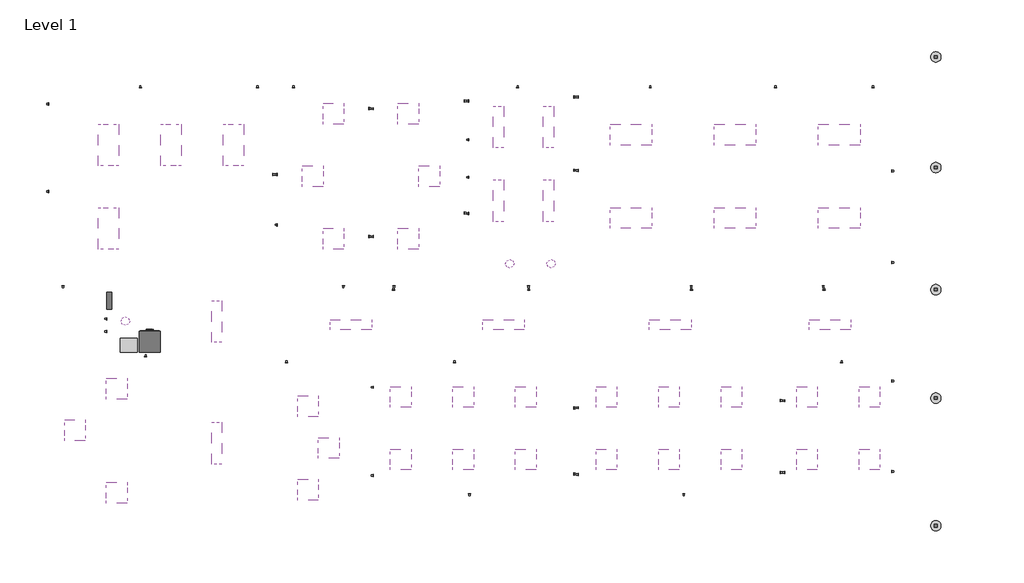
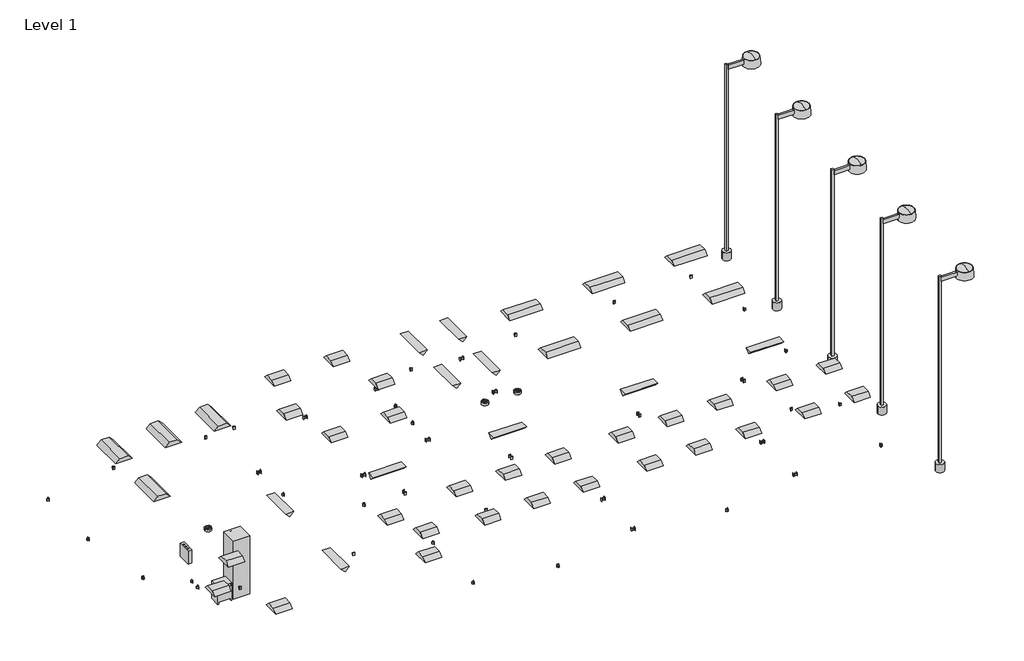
# One storey: 61 proxies, 56 light fixtures.
"""IFC4 building model written with IfcOpenShell, lengths in millimetres."""

from ifc_helpers import new_model, si_unit, origin, place, context, project, spatial, transform, mapped, element, save
from components import proxy_15_kva_b0f935c8, duplex_receptacle_standard_10251bba, lighting_and_appliance_panelboard_208v_100_a_7126e705, proxy_f2fcea41, ceiling_light_flat_round_60w_120v_a3c1fe64, plain_recessed_lighting_fixture_1x4_120_73690371, plain_recessed_lighting_fixture_2x2_120_2107ce2d, plain_recessed_lighting_fixture_2x4_120_d3d5fc87, street_light_standard_400w_halogen_120v_63d2c179

model = new_model("IFC4")

# Units and contexts
model_context = context("Model", 3, world=origin())
ifc_project = project(units=[si_unit("LENGTHUNIT", "METRE", prefix="MILLI")], contexts=[model_context])

# Site, building, storey
site = spatial("IfcSite", under=ifc_project)
building = spatial("IfcBuilding", under=site)
storey = spatial("IfcBuildingStorey", under=building, Name="Level 1", Elevation=0.0)

# Proxies
placement = place(None, origin())
proxy_15_kva_shape = proxy_15_kva_b0f935c8(model_context)
element("IfcBuildingElementProxy", 1, Name="Dry Type Transformer - 480-208Y120 - NEMA Type 2 : 15 kVA", ObjectType="Dry Type Transformer - 480-208Y120 - NEMA Type 2 : 15 kVA", at=placement, inside=storey, context=model_context, shape_type="MappedRepresentation", body=[
    mapped(proxy_15_kva_shape, transform((-9977.4200118, -1021.8173203, 0.0), x_axis=(-1.0, 0.0, 0.0), y_axis=(0.0, -1.0, 0.0), z_axis=(0.0, 0.0, 1.0))),
])
duplex_receptacle_standard_shape = duplex_receptacle_standard_10251bba(model_context)
element("IfcBuildingElementProxy", 2, Name="Duplex Receptacle : Standard", ObjectType="Duplex Receptacle : Standard", at=placement, inside=storey, context=model_context, shape_type="MappedRepresentation", body=[
    mapped(duplex_receptacle_standard_shape, transform((-35.6380103, 2648.1174507, 457.2), x_axis=(0.0, 1.0, 0.0), y_axis=(0.0, 0.0, 1.0), z_axis=(1.0, 0.0, 0.0))),
])
element("IfcBuildingElementProxy", 3, Name="Duplex Receptacle : Standard", ObjectType="Duplex Receptacle : Standard", at=placement, inside=storey, context=model_context, shape_type="MappedRepresentation", body=[
    mapped(duplex_receptacle_standard_shape, transform((-35.6380103, 3713.8918475, 457.2), x_axis=(0.0, 1.0, 0.0), y_axis=(0.0, 0.0, 1.0), z_axis=(1.0, 0.0, 0.0))),
])
element("IfcBuildingElementProxy", 4, Name="Duplex Receptacle : Standard", ObjectType="Duplex Receptacle : Standard", at=placement, inside=storey, context=model_context, shape_type="MappedRepresentation", body=[
    mapped(duplex_receptacle_standard_shape, transform((-35.6380103, 4811.7196097, 457.2), x_axis=(0.0, 1.0, 0.0), y_axis=(0.0, 0.0, 1.0), z_axis=(1.0, 0.0, 0.0))),
])
element("IfcBuildingElementProxy", 5, Name="Duplex Receptacle : Standard", ObjectType="Duplex Receptacle : Standard", at=placement, inside=storey, context=model_context, shape_type="MappedRepresentation", body=[
    mapped(duplex_receptacle_standard_shape, transform((-35.6380103, 5949.6140785, 457.2), x_axis=(0.0, 1.0, 0.0), y_axis=(0.0, 0.0, 1.0), z_axis=(1.0, 0.0, 0.0))),
])
element("IfcBuildingElementProxy", 6, Name="Duplex Receptacle : Standard", ObjectType="Duplex Receptacle : Standard", at=placement, inside=storey, context=model_context, shape_type="MappedRepresentation", body=[
    mapped(duplex_receptacle_standard_shape, transform((3054.9541807, 6058.3078836, 457.2), x_axis=(0.0, -1.0, 0.0), y_axis=(0.0, 0.0, 1.0), z_axis=(-1.0, 0.0, 0.0))),
])
element("IfcBuildingElementProxy", 7, Name="Duplex Receptacle : Standard", ObjectType="Duplex Receptacle : Standard", at=placement, inside=storey, context=model_context, shape_type="MappedRepresentation", body=[
    mapped(duplex_receptacle_standard_shape, transform((3054.9541807, 3918.7457486, 457.2), x_axis=(0.0, -1.0, 0.0), y_axis=(0.0, 0.0, 1.0), z_axis=(-1.0, 0.0, 0.0))),
])
element("IfcBuildingElementProxy", 8, Name="Duplex Receptacle : Standard", ObjectType="Duplex Receptacle : Standard", at=placement, inside=storey, context=model_context, shape_type="MappedRepresentation", body=[
    mapped(duplex_receptacle_standard_shape, transform((1404.1361978, 6330.7167452, 457.2), x_axis=(1.0, 0.0, 0.0), y_axis=(0.0, 0.0, 1.0), z_axis=(0.0, -1.0, 0.0))),
])
element("IfcBuildingElementProxy", 9, Name="Duplex Receptacle : Standard", ObjectType="Duplex Receptacle : Standard", at=placement, inside=storey, context=model_context, shape_type="MappedRepresentation", body=[
    mapped(duplex_receptacle_standard_shape, transform((-11896.9375423, 539.3362982, 457.2), x_axis=(-1.0, 0.0, 0.0), y_axis=(0.0, 0.0, 1.0), z_axis=(0.0, 1.0, 0.0))),
])
element("IfcBuildingElementProxy", 10, Name="Duplex Receptacle : Standard", ObjectType="Duplex Receptacle : Standard", at=placement, inside=storey, context=model_context, shape_type="MappedRepresentation", body=[
    mapped(duplex_receptacle_standard_shape, transform((-12326.8965226, 3293.728876, 457.2), x_axis=(0.0, 1.0, 0.0), y_axis=(0.0, 0.0, 1.0), z_axis=(1.0, 0.0, 0.0))),
])
element("IfcBuildingElementProxy", 11, Name="Duplex Receptacle : Standard", ObjectType="Duplex Receptacle : Standard", at=placement, inside=storey, context=model_context, shape_type="MappedRepresentation", body=[
    mapped(duplex_receptacle_standard_shape, transform((-12326.8965226, 5855.4034771, 457.2), x_axis=(0.0, 1.0, 0.0), y_axis=(0.0, 0.0, 1.0), z_axis=(1.0, 0.0, 0.0))),
])
element("IfcBuildingElementProxy", 12, Name="Duplex Receptacle : Standard", ObjectType="Duplex Receptacle : Standard", at=placement, inside=storey, context=model_context, shape_type="MappedRepresentation", body=[
    mapped(duplex_receptacle_standard_shape, transform((-9637.0519321, 6330.7167452, 457.2), x_axis=(1.0, 0.0, 0.0), y_axis=(0.0, 0.0, 1.0), z_axis=(0.0, -1.0, 0.0))),
])
element("IfcBuildingElementProxy", 13, Name="Duplex Receptacle : Standard", ObjectType="Duplex Receptacle : Standard", at=placement, inside=storey, context=model_context, shape_type="MappedRepresentation", body=[
    mapped(duplex_receptacle_standard_shape, transform((-6212.0214597, 6330.7167452, 457.2), x_axis=(1.0, 0.0, 0.0), y_axis=(0.0, 0.0, 1.0), z_axis=(0.0, -1.0, 0.0))),
])
element("IfcBuildingElementProxy", 14, Name="Duplex Receptacle : Standard", ObjectType="Duplex Receptacle : Standard", at=placement, inside=storey, context=model_context, shape_type="MappedRepresentation", body=[
    mapped(duplex_receptacle_standard_shape, transform((-5761.7329716, 3793.1487614, 457.2), x_axis=(0.0, -1.0, 0.0), y_axis=(0.0, 0.0, 1.0), z_axis=(-1.0, 0.0, 0.0))),
])
element("IfcBuildingElementProxy", 15, Name="Duplex Receptacle : Standard", ObjectType="Duplex Receptacle : Standard", at=placement, inside=storey, context=model_context, shape_type="MappedRepresentation", body=[
    mapped(duplex_receptacle_standard_shape, transform((-3696.8781677, 539.3362982, 457.2), x_axis=(-1.0, 0.0, 0.0), y_axis=(0.0, 0.0, 1.0), z_axis=(0.0, 1.0, 0.0))),
])
element("IfcBuildingElementProxy", 16, Name="Duplex Receptacle : Standard", ObjectType="Duplex Receptacle : Standard", at=placement, inside=storey, context=model_context, shape_type="MappedRepresentation", body=[
    mapped(duplex_receptacle_standard_shape, transform((-2943.0314516, 1977.435622, 457.2), x_axis=(0.0, -1.0, 0.0), y_axis=(0.0, 0.0, 1.0), z_axis=(-1.0, 0.0, 0.0))),
])
element("IfcBuildingElementProxy", 17, Name="Duplex Receptacle : Standard", ObjectType="Duplex Receptacle : Standard", at=placement, inside=storey, context=model_context, shape_type="MappedRepresentation", body=[
    mapped(duplex_receptacle_standard_shape, transform((-2943.0314516, 5727.6793643, 457.2), x_axis=(0.0, -1.0, 0.0), y_axis=(0.0, 0.0, 1.0), z_axis=(-1.0, 0.0, 0.0))),
])
element("IfcBuildingElementProxy", 18, Name="Duplex Receptacle : Standard", ObjectType="Duplex Receptacle : Standard", at=placement, inside=storey, context=model_context, shape_type="MappedRepresentation", body=[
    mapped(duplex_receptacle_standard_shape, transform((-5155.3062897, 6330.7167452, 457.2), x_axis=(1.0, 0.0, 0.0), y_axis=(0.0, 0.0, 1.0), z_axis=(0.0, -1.0, 0.0))),
])
element("IfcBuildingElementProxy", 19, Name="Duplex Receptacle : Standard", ObjectType="Duplex Receptacle : Standard", at=placement, inside=storey, context=model_context, shape_type="MappedRepresentation", body=[
    mapped(duplex_receptacle_standard_shape, transform((-5637.9079716, 3796.4641038, 457.2), x_axis=(0.0, 1.0, 0.0), y_axis=(0.0, 0.0, 1.0), z_axis=(1.0, 0.0, 0.0))),
])
element("IfcBuildingElementProxy", 20, Name="Duplex Receptacle : Standard", ObjectType="Duplex Receptacle : Standard", at=placement, inside=storey, context=model_context, shape_type="MappedRepresentation", body=[
    mapped(duplex_receptacle_standard_shape, transform((-5637.9079716, 2322.0092992, 457.2), x_axis=(0.0, 1.0, 0.0), y_axis=(0.0, 0.0, 1.0), z_axis=(1.0, 0.0, 0.0))),
])
element("IfcBuildingElementProxy", 21, Name="Duplex Receptacle : Standard", ObjectType="Duplex Receptacle : Standard", at=placement, inside=storey, context=model_context, shape_type="MappedRepresentation", body=[
    mapped(duplex_receptacle_standard_shape, transform((-2819.2064516, 5717.2271799, 457.2), x_axis=(0.0, 1.0, 0.0), y_axis=(0.0, 0.0, 1.0), z_axis=(1.0, 0.0, 0.0))),
])
element("IfcBuildingElementProxy", 22, Name="Duplex Receptacle : Standard", ObjectType="Duplex Receptacle : Standard", at=placement, inside=storey, context=model_context, shape_type="MappedRepresentation", body=[
    mapped(duplex_receptacle_standard_shape, transform((-2819.2064516, 1974.996779, 457.2), x_axis=(0.0, 1.0, 0.0), y_axis=(0.0, 0.0, 1.0), z_axis=(1.0, 0.0, 0.0))),
])
element("IfcBuildingElementProxy", 23, Name="Duplex Receptacle : Standard", ObjectType="Duplex Receptacle : Standard", at=placement, inside=storey, context=model_context, shape_type="MappedRepresentation", body=[
    mapped(duplex_receptacle_standard_shape, transform((-2217.8940832, 539.3362982, 457.2), x_axis=(-1.0, 0.0, 0.0), y_axis=(0.0, 0.0, 1.0), z_axis=(0.0, 1.0, 0.0))),
])
element("IfcBuildingElementProxy", 24, Name="Duplex Receptacle : Standard", ObjectType="Duplex Receptacle : Standard", at=placement, inside=storey, context=model_context, shape_type="MappedRepresentation", body=[
    mapped(duplex_receptacle_standard_shape, transform((-159.4630103, 5949.6140785, 457.2), x_axis=(0.0, -1.0, 0.0), y_axis=(0.0, 0.0, 1.0), z_axis=(-1.0, 0.0, 0.0))),
])
element("IfcBuildingElementProxy", 25, Name="Duplex Receptacle : Standard", ObjectType="Duplex Receptacle : Standard", at=placement, inside=storey, context=model_context, shape_type="MappedRepresentation", body=[
    mapped(duplex_receptacle_standard_shape, transform((-159.4630103, 2664.1441333, 457.2), x_axis=(0.0, -1.0, 0.0), y_axis=(0.0, 0.0, 1.0), z_axis=(-1.0, 0.0, 0.0))),
])
element("IfcBuildingElementProxy", 26, Name="Duplex Receptacle : Standard", ObjectType="Duplex Receptacle : Standard", at=placement, inside=storey, context=model_context, shape_type="MappedRepresentation", body=[
    mapped(duplex_receptacle_standard_shape, transform((3178.7791807, 3910.7324072, 457.2), x_axis=(0.0, 1.0, 0.0), y_axis=(0.0, 0.0, 1.0), z_axis=(1.0, 0.0, 0.0))),
])
element("IfcBuildingElementProxy", 27, Name="Duplex Receptacle : Standard", ObjectType="Duplex Receptacle : Standard", at=placement, inside=storey, context=model_context, shape_type="MappedRepresentation", body=[
    mapped(duplex_receptacle_standard_shape, transform((3178.7791807, 6058.3078836, 457.2), x_axis=(0.0, 1.0, 0.0), y_axis=(0.0, 0.0, 1.0), z_axis=(1.0, 0.0, 0.0))),
])
element("IfcBuildingElementProxy", 28, Name="Duplex Receptacle : Standard", ObjectType="Duplex Receptacle : Standard", at=placement, inside=storey, context=model_context, shape_type="MappedRepresentation", body=[
    mapped(duplex_receptacle_standard_shape, transform((5282.5934014, 6330.7167452, 457.2), x_axis=(1.0, 0.0, 0.0), y_axis=(0.0, 0.0, 1.0), z_axis=(0.0, -1.0, 0.0))),
])
element("IfcBuildingElementProxy", 29, Name="Duplex Receptacle : Standard", ObjectType="Duplex Receptacle : Standard", at=placement, inside=storey, context=model_context, shape_type="MappedRepresentation", body=[
    mapped(duplex_receptacle_standard_shape, transform((8952.7037304, 6330.7167452, 457.2), x_axis=(1.0, 0.0, 0.0), y_axis=(0.0, 0.0, 1.0), z_axis=(0.0, -1.0, 0.0))),
])
element("IfcBuildingElementProxy", 30, Name="Duplex Receptacle : Standard", ObjectType="Duplex Receptacle : Standard", at=placement, inside=storey, context=model_context, shape_type="MappedRepresentation", body=[
    mapped(duplex_receptacle_standard_shape, transform((11805.4532437, 6330.7167452, 457.2), x_axis=(1.0, 0.0, 0.0), y_axis=(0.0, 0.0, 1.0), z_axis=(0.0, -1.0, 0.0))),
])
element("IfcBuildingElementProxy", 31, Name="Duplex Receptacle : Standard", ObjectType="Duplex Receptacle : Standard", at=placement, inside=storey, context=model_context, shape_type="MappedRepresentation", body=[
    mapped(duplex_receptacle_standard_shape, transform((12355.5534774, 3898.1986981, 457.2), x_axis=(0.0, -1.0, 0.0), y_axis=(0.0, 0.0, 1.0), z_axis=(-1.0, 0.0, 0.0))),
])
element("IfcBuildingElementProxy", 32, Name="Duplex Receptacle : Standard", ObjectType="Duplex Receptacle : Standard", at=placement, inside=storey, context=model_context, shape_type="MappedRepresentation", body=[
    mapped(duplex_receptacle_standard_shape, transform((12355.5534774, 1221.742694, 457.2), x_axis=(0.0, -1.0, 0.0), y_axis=(0.0, 0.0, 1.0), z_axis=(-1.0, 0.0, 0.0))),
])
element("IfcBuildingElementProxy", 33, Name="Duplex Receptacle : Standard", ObjectType="Duplex Receptacle : Standard", at=placement, inside=storey, context=model_context, shape_type="MappedRepresentation", body=[
    mapped(duplex_receptacle_standard_shape, transform((10347.0251217, 539.3362982, 457.2), x_axis=(-1.0, 0.0, 0.0), y_axis=(0.0, 0.0, 1.0), z_axis=(0.0, 1.0, 0.0))),
])
element("IfcBuildingElementProxy", 34, Name="Duplex Receptacle : Standard", ObjectType="Duplex Receptacle : Standard", at=placement, inside=storey, context=model_context, shape_type="MappedRepresentation", body=[
    mapped(duplex_receptacle_standard_shape, transform((6484.5946008, 539.3362982, 457.2), x_axis=(-1.0, 0.0, 0.0), y_axis=(0.0, 0.0, 1.0), z_axis=(0.0, 1.0, 0.0))),
])
element("IfcBuildingElementProxy", 35, Name="Duplex Receptacle : Standard", ObjectType="Duplex Receptacle : Standard", at=placement, inside=storey, context=model_context, shape_type="MappedRepresentation", body=[
    mapped(duplex_receptacle_standard_shape, transform((10364.3439331, 415.5112982, 457.2), x_axis=(1.0, 0.0, 0.0), y_axis=(0.0, 0.0, 1.0), z_axis=(0.0, -1.0, 0.0))),
])
element("IfcBuildingElementProxy", 36, Name="Duplex Receptacle : Standard", ObjectType="Duplex Receptacle : Standard", at=placement, inside=storey, context=model_context, shape_type="MappedRepresentation", body=[
    mapped(duplex_receptacle_standard_shape, transform((6485.6062626, 415.5112982, 457.2), x_axis=(1.0, 0.0, 0.0), y_axis=(0.0, 0.0, 1.0), z_axis=(0.0, -1.0, 0.0))),
])
element("IfcBuildingElementProxy", 37, Name="Duplex Receptacle : Standard", ObjectType="Duplex Receptacle : Standard", at=placement, inside=storey, context=model_context, shape_type="MappedRepresentation", body=[
    mapped(duplex_receptacle_standard_shape, transform((1727.2641477, 415.5112982, 457.2), x_axis=(1.0, 0.0, 0.0), y_axis=(0.0, 0.0, 1.0), z_axis=(0.0, -1.0, 0.0))),
])
element("IfcBuildingElementProxy", 38, Name="Duplex Receptacle : Standard", ObjectType="Duplex Receptacle : Standard", at=placement, inside=storey, context=model_context, shape_type="MappedRepresentation", body=[
    mapped(duplex_receptacle_standard_shape, transform((1724.669851, 539.3362982, 457.2), x_axis=(-1.0, 0.0, 0.0), y_axis=(0.0, 0.0, 1.0), z_axis=(0.0, 1.0, 0.0))),
])
element("IfcBuildingElementProxy", 39, Name="Duplex Receptacle : Standard", ObjectType="Duplex Receptacle : Standard", at=placement, inside=storey, context=model_context, shape_type="MappedRepresentation", body=[
    mapped(duplex_receptacle_standard_shape, transform((-2225.6570301, 415.5112982, 457.2), x_axis=(1.0, 0.0, 0.0), y_axis=(0.0, 0.0, 1.0), z_axis=(0.0, -1.0, 0.0))),
])
element("IfcBuildingElementProxy", 40, Name="Duplex Receptacle : Standard", ObjectType="Duplex Receptacle : Standard", at=placement, inside=storey, context=model_context, shape_type="MappedRepresentation", body=[
    mapped(duplex_receptacle_standard_shape, transform((10884.0330798, -1710.3119449, 457.2), x_axis=(1.0, 0.0, 0.0), y_axis=(0.0, 0.0, 1.0), z_axis=(0.0, -1.0, 0.0))),
])
element("IfcBuildingElementProxy", 41, Name="Duplex Receptacle : Standard", ObjectType="Duplex Receptacle : Standard", at=placement, inside=storey, context=model_context, shape_type="MappedRepresentation", body=[
    mapped(duplex_receptacle_standard_shape, transform((12355.5534774, -2243.543179, 457.2), x_axis=(0.0, -1.0, 0.0), y_axis=(0.0, 0.0, 1.0), z_axis=(-1.0, 0.0, 0.0))),
])
element("IfcBuildingElementProxy", 42, Name="Duplex Receptacle : Standard", ObjectType="Duplex Receptacle : Standard", at=placement, inside=storey, context=model_context, shape_type="MappedRepresentation", body=[
    mapped(duplex_receptacle_standard_shape, transform((12355.5534774, -4891.4298793, 457.2), x_axis=(0.0, -1.0, 0.0), y_axis=(0.0, 0.0, 1.0), z_axis=(-1.0, 0.0, 0.0))),
])
element("IfcBuildingElementProxy", 43, Name="Duplex Receptacle : Standard", ObjectType="Duplex Receptacle : Standard", at=placement, inside=storey, context=model_context, shape_type="MappedRepresentation", body=[
    mapped(duplex_receptacle_standard_shape, transform((9215.7608002, -4927.7853031, 457.2), x_axis=(0.0, 1.0, 0.0), y_axis=(0.0, 0.0, 1.0), z_axis=(1.0, 0.0, 0.0))),
])
element("IfcBuildingElementProxy", 44, Name="Duplex Receptacle : Standard", ObjectType="Duplex Receptacle : Standard", at=placement, inside=storey, context=model_context, shape_type="MappedRepresentation", body=[
    mapped(duplex_receptacle_standard_shape, transform((9215.7608002, -2825.2299599, 457.2), x_axis=(0.0, 1.0, 0.0), y_axis=(0.0, 0.0, 1.0), z_axis=(1.0, 0.0, 0.0))),
])
element("IfcBuildingElementProxy", 45, Name="Duplex Receptacle : Standard", ObjectType="Duplex Receptacle : Standard", at=placement, inside=storey, context=model_context, shape_type="MappedRepresentation", body=[
    mapped(duplex_receptacle_standard_shape, transform((9091.9358002, -2822.2003412, 457.2), x_axis=(0.0, -1.0, 0.0), y_axis=(0.0, 0.0, 1.0), z_axis=(-1.0, 0.0, 0.0))),
])
element("IfcBuildingElementProxy", 46, Name="Duplex Receptacle : Standard", ObjectType="Duplex Receptacle : Standard", at=placement, inside=storey, context=model_context, shape_type="MappedRepresentation", body=[
    mapped(duplex_receptacle_standard_shape, transform((9091.9358002, -4926.5734556, 457.2), x_axis=(0.0, -1.0, 0.0), y_axis=(0.0, 0.0, 1.0), z_axis=(-1.0, 0.0, 0.0))),
])
element("IfcBuildingElementProxy", 47, Name="Duplex Receptacle : Standard", ObjectType="Duplex Receptacle : Standard", at=placement, inside=storey, context=model_context, shape_type="MappedRepresentation", body=[
    mapped(duplex_receptacle_standard_shape, transform((6264.7735239, -5550.1332548, 457.2), x_axis=(-1.0, 0.0, 0.0), y_axis=(0.0, 0.0, 1.0), z_axis=(0.0, 1.0, 0.0))),
])
element("IfcBuildingElementProxy", 48, Name="Duplex Receptacle : Standard", ObjectType="Duplex Receptacle : Standard", at=placement, inside=storey, context=model_context, shape_type="MappedRepresentation", body=[
    mapped(duplex_receptacle_standard_shape, transform((3178.7791807, -4982.3184388, 457.2), x_axis=(0.0, 1.0, 0.0), y_axis=(0.0, 0.0, 1.0), z_axis=(1.0, 0.0, 0.0))),
])
element("IfcBuildingElementProxy", 49, Name="Duplex Receptacle : Standard", ObjectType="Duplex Receptacle : Standard", at=placement, inside=storey, context=model_context, shape_type="MappedRepresentation", body=[
    mapped(duplex_receptacle_standard_shape, transform((3178.7791807, -3031.2440281, 457.2), x_axis=(0.0, 1.0, 0.0), y_axis=(0.0, 0.0, 1.0), z_axis=(1.0, 0.0, 0.0))),
])
element("IfcBuildingElementProxy", 50, Name="Duplex Receptacle : Standard", ObjectType="Duplex Receptacle : Standard", at=placement, inside=storey, context=model_context, shape_type="MappedRepresentation", body=[
    mapped(duplex_receptacle_standard_shape, transform((3054.9541807, -3040.6605751, 457.2), x_axis=(0.0, -1.0, 0.0), y_axis=(0.0, 0.0, 1.0), z_axis=(-1.0, 0.0, 0.0))),
])
element("IfcBuildingElementProxy", 51, Name="Duplex Receptacle : Standard", ObjectType="Duplex Receptacle : Standard", at=placement, inside=storey, context=model_context, shape_type="MappedRepresentation", body=[
    mapped(duplex_receptacle_standard_shape, transform((3054.9541807, -4971.8758356, 457.2), x_axis=(0.0, -1.0, 0.0), y_axis=(0.0, 0.0, 1.0), z_axis=(-1.0, 0.0, 0.0))),
])
element("IfcBuildingElementProxy", 52, Name="Duplex Receptacle : Standard", ObjectType="Duplex Receptacle : Standard", at=placement, inside=storey, context=model_context, shape_type="MappedRepresentation", body=[
    mapped(duplex_receptacle_standard_shape, transform((-2819.2064516, -5011.9425422, 457.2), x_axis=(0.0, 1.0, 0.0), y_axis=(0.0, 0.0, 1.0), z_axis=(1.0, 0.0, 0.0))),
])
element("IfcBuildingElementProxy", 53, Name="Duplex Receptacle : Standard", ObjectType="Duplex Receptacle : Standard", at=placement, inside=storey, context=model_context, shape_type="MappedRepresentation", body=[
    mapped(duplex_receptacle_standard_shape, transform((-2819.2064516, -2431.6466341, 457.2), x_axis=(0.0, 1.0, 0.0), y_axis=(0.0, 0.0, 1.0), z_axis=(1.0, 0.0, 0.0))),
])
element("IfcBuildingElementProxy", 54, Name="Duplex Receptacle : Standard", ObjectType="Duplex Receptacle : Standard", at=placement, inside=storey, context=model_context, shape_type="MappedRepresentation", body=[
    mapped(duplex_receptacle_standard_shape, transform((-443.3364786, -1710.3119449, 457.2), x_axis=(1.0, 0.0, 0.0), y_axis=(0.0, 0.0, 1.0), z_axis=(0.0, -1.0, 0.0))),
])
element("IfcBuildingElementProxy", 55, Name="Duplex Receptacle : Standard", ObjectType="Duplex Receptacle : Standard", at=placement, inside=storey, context=model_context, shape_type="MappedRepresentation", body=[
    mapped(duplex_receptacle_standard_shape, transform((-2.6027055, -5550.1332548, 457.2), x_axis=(-1.0, 0.0, 0.0), y_axis=(0.0, 0.0, 1.0), z_axis=(0.0, 1.0, 0.0))),
])
element("IfcBuildingElementProxy", 56, Name="Duplex Receptacle : Standard", ObjectType="Duplex Receptacle : Standard", at=placement, inside=storey, context=model_context, shape_type="MappedRepresentation", body=[
    mapped(duplex_receptacle_standard_shape, transform((-5361.484653, -1710.3119449, 457.2), x_axis=(1.0, 0.0, 0.0), y_axis=(0.0, 0.0, 1.0), z_axis=(0.0, -1.0, 0.0))),
])
element("IfcBuildingElementProxy", 57, Name="Duplex Receptacle : Standard", ObjectType="Duplex Receptacle : Standard", at=placement, inside=storey, context=model_context, shape_type="MappedRepresentation", body=[
    mapped(duplex_receptacle_standard_shape, transform((-9480.7427635, -1530.7127622, 457.2), x_axis=(1.0, 0.0, 0.0), y_axis=(0.0, 0.0, 1.0), z_axis=(0.0, -1.0, 0.0))),
])
element("IfcBuildingElementProxy", 58, Name="Duplex Receptacle : Standard", ObjectType="Duplex Receptacle : Standard", at=placement, inside=storey, context=model_context, shape_type="MappedRepresentation", body=[
    mapped(duplex_receptacle_standard_shape, transform((-10618.9849987, -802.683715, 457.2), x_axis=(0.0, 1.0, 0.0), y_axis=(0.0, 0.0, 1.0), z_axis=(1.0, 0.0, 0.0))),
])
element("IfcBuildingElementProxy", 59, Name="Duplex Receptacle : Standard", ObjectType="Duplex Receptacle : Standard", at=placement, inside=storey, context=model_context, shape_type="MappedRepresentation", body=[
    mapped(duplex_receptacle_standard_shape, transform((-10618.9849987, -428.1176265, 457.2), x_axis=(0.0, 1.0, 0.0), y_axis=(0.0, 0.0, 1.0), z_axis=(1.0, 0.0, 0.0))),
])
lighting_and_appliance_panelboard_208v_100_a_shape = lighting_and_appliance_panelboard_208v_100_a_7126e705(model_context)
element("IfcBuildingElementProxy", 60, Name="Lighting and Appliance Panelboard - 208V : 100 A", ObjectType="Lighting and Appliance Panelboard - 208V : 100 A", at=placement, inside=storey, context=model_context, shape_type="MappedRepresentation", body=[
    mapped(lighting_and_appliance_panelboard_208v_100_a_shape, transform((-10618.9849987, 99.6800437, 1219.2), x_axis=(0.0, 1.0, 0.0), y_axis=(0.0, 0.0, -1.0), z_axis=(-1.0, 0.0, 0.0))),
])
proxy_shape = proxy_f2fcea41(model_context)
element("IfcBuildingElementProxy", 61, Name="Metering Switchboard : 24\"x26.25\"", ObjectType="Metering Switchboard : 24\"x26.25\"", at=placement, inside=storey, context=model_context, shape_type="MappedRepresentation", body=[
    mapped(proxy_shape, transform((-9356.388949, -1404.6099297, 0.0), x_axis=(-1.0, 0.0, 0.0), y_axis=(0.0, -1.0, 0.0), z_axis=(0.0, 0.0, 1.0))),
])

# Light fixtures
ceiling_light_flat_round_60w_120v_shape = ceiling_light_flat_round_60w_120v_a3c1fe64(model_context)
element("IfcLightFixture", 62, ObjectType="Ceiling Light - Flat Round : 60W - 120V", at=placement, inside=storey, context=model_context, shape_type="MappedRepresentation", body=[
    mapped(ceiling_light_flat_round_60w_120v_shape, transform((2383.8661295, 1183.5273163, 2438.4), x_axis=(1.0, 0.0, 0.0), y_axis=(0.0, -1.0, 0.0), z_axis=(0.0, 0.0, -1.0))),
])
element("IfcLightFixture", 63, ObjectType="Ceiling Light - Flat Round : 60W - 120V", at=placement, inside=storey, context=model_context, shape_type="MappedRepresentation", body=[
    mapped(ceiling_light_flat_round_60w_120v_shape, transform((1173.2843647, 1183.5273163, 2438.4), x_axis=(1.0, 0.0, 0.0), y_axis=(0.0, -1.0, 0.0), z_axis=(0.0, 0.0, -1.0))),
])
element("IfcLightFixture", 64, ObjectType="Ceiling Light - Flat Round : 60W - 120V", at=placement, inside=storey, context=model_context, shape_type="MappedRepresentation", body=[
    mapped(ceiling_light_flat_round_60w_120v_shape, transform((-10072.8185222, -495.688232, 2438.4), x_axis=(1.0, 0.0, 0.0), y_axis=(0.0, -1.0, 0.0), z_axis=(0.0, 0.0, -1.0))),
])
plain_recessed_lighting_fixture_1x4_120_shape = plain_recessed_lighting_fixture_1x4_120_73690371(model_context)
element("IfcLightFixture", 65, ObjectType="Plain Recessed Lighting Fixture : 1x4 - 120", at=placement, inside=storey, context=model_context, shape_type="MappedRepresentation", body=[
    mapped(plain_recessed_lighting_fixture_1x4_120_shape, transform((-4086.8396974, -448.5225822, 2438.4), x_axis=(1.0, 0.0, 0.0), y_axis=(0.0, 1.0, 0.0), z_axis=(0.0, 0.0, 1.0))),
])
element("IfcLightFixture", 66, ObjectType="Plain Recessed Lighting Fixture : 1x4 - 120", at=placement, inside=storey, context=model_context, shape_type="MappedRepresentation", body=[
    mapped(plain_recessed_lighting_fixture_1x4_120_shape, transform((383.5603026, -448.5225822, 2438.4), x_axis=(1.0, 0.0, 0.0), y_axis=(0.0, 1.0, 0.0), z_axis=(0.0, 0.0, 1.0))),
])
element("IfcLightFixture", 67, ObjectType="Plain Recessed Lighting Fixture : 1x4 - 120", at=placement, inside=storey, context=model_context, shape_type="MappedRepresentation", body=[
    mapped(plain_recessed_lighting_fixture_1x4_120_shape, transform((5260.3603026, -448.5225822, 2438.4), x_axis=(1.0, 0.0, 0.0), y_axis=(0.0, 1.0, 0.0), z_axis=(0.0, 0.0, 1.0))),
])
element("IfcLightFixture", 68, ObjectType="Plain Recessed Lighting Fixture : 1x4 - 120", at=placement, inside=storey, context=model_context, shape_type="MappedRepresentation", body=[
    mapped(plain_recessed_lighting_fixture_1x4_120_shape, transform((9933.9603026, -448.5225822, 2438.4), x_axis=(1.0, 0.0, 0.0), y_axis=(0.0, 1.0, 0.0), z_axis=(0.0, 0.0, 1.0))),
])
element("IfcLightFixture", 69, ObjectType="Plain Recessed Lighting Fixture : 1x4 - 120", at=placement, inside=storey, context=model_context, shape_type="MappedRepresentation", body=[
    mapped(plain_recessed_lighting_fixture_1x4_120_shape, transform((-7553.1170415, -1121.3482269, 2438.4), x_axis=(0.0, 1.0, 0.0), y_axis=(-1.0, 0.0, 0.0), z_axis=(0.0, 0.0, 1.0))),
])
element("IfcLightFixture", 70, ObjectType="Plain Recessed Lighting Fixture : 1x4 - 120", at=placement, inside=storey, context=model_context, shape_type="MappedRepresentation", body=[
    mapped(plain_recessed_lighting_fixture_1x4_120_shape, transform((-7553.1170415, -4680.447715, 2438.4), x_axis=(0.0, 1.0, 0.0), y_axis=(-1.0, 0.0, 0.0), z_axis=(0.0, 0.0, 1.0))),
])
element("IfcLightFixture", 71, ObjectType="Plain Recessed Lighting Fixture : 1x4 - 120", at=placement, inside=storey, context=model_context, shape_type="MappedRepresentation", body=[
    mapped(plain_recessed_lighting_fixture_1x4_120_shape, transform((690.4888321, 4574.6175062, 2438.4), x_axis=(0.0, 1.0, 0.0), y_axis=(-1.0, 0.0, 0.0), z_axis=(0.0, 0.0, 1.0))),
])
element("IfcLightFixture", 72, ObjectType="Plain Recessed Lighting Fixture : 1x4 - 120", at=placement, inside=storey, context=model_context, shape_type="MappedRepresentation", body=[
    mapped(plain_recessed_lighting_fixture_1x4_120_shape, transform((2158.6173709, 4574.6175062, 2438.4), x_axis=(0.0, 1.0, 0.0), y_axis=(-1.0, 0.0, 0.0), z_axis=(0.0, 0.0, 1.0))),
])
element("IfcLightFixture", 73, ObjectType="Plain Recessed Lighting Fixture : 1x4 - 120", at=placement, inside=storey, context=model_context, shape_type="MappedRepresentation", body=[
    mapped(plain_recessed_lighting_fixture_1x4_120_shape, transform((2158.6173709, 2416.9134415, 2438.4), x_axis=(0.0, 1.0, 0.0), y_axis=(-1.0, 0.0, 0.0), z_axis=(0.0, 0.0, 1.0))),
])
element("IfcLightFixture", 74, ObjectType="Plain Recessed Lighting Fixture : 1x4 - 120", at=placement, inside=storey, context=model_context, shape_type="MappedRepresentation", body=[
    mapped(plain_recessed_lighting_fixture_1x4_120_shape, transform((690.4888321, 2416.9134415, 2438.4), x_axis=(0.0, 1.0, 0.0), y_axis=(-1.0, 0.0, 0.0), z_axis=(0.0, 0.0, 1.0))),
])
plain_recessed_lighting_fixture_2x2_120_shape = plain_recessed_lighting_fixture_2x2_120_2107ce2d(model_context)
element("IfcLightFixture", 75, ObjectType="Plain Recessed Lighting Fixture : 2x2 - 120", at=placement, inside=storey, context=model_context, shape_type="MappedRepresentation", body=[
    mapped(plain_recessed_lighting_fixture_2x2_120_shape, transform((-2320.5261355, -3020.6225998, 2438.4), x_axis=(1.0, 0.0, 0.0), y_axis=(0.0, -1.0, 0.0), z_axis=(0.0, 0.0, -1.0))),
])
element("IfcLightFixture", 76, ObjectType="Plain Recessed Lighting Fixture : 2x2 - 120", at=placement, inside=storey, context=model_context, shape_type="MappedRepresentation", body=[
    mapped(plain_recessed_lighting_fixture_2x2_120_shape, transform((-2320.5261355, -4849.4225998, 2438.4), x_axis=(1.0, 0.0, 0.0), y_axis=(0.0, -1.0, 0.0), z_axis=(0.0, 0.0, -1.0))),
])
element("IfcLightFixture", 77, ObjectType="Plain Recessed Lighting Fixture : 2x2 - 120", at=placement, inside=storey, context=model_context, shape_type="MappedRepresentation", body=[
    mapped(plain_recessed_lighting_fixture_2x2_120_shape, transform((-491.7261355, -3020.6225998, 2438.4), x_axis=(1.0, 0.0, 0.0), y_axis=(0.0, -1.0, 0.0), z_axis=(0.0, 0.0, -1.0))),
])
element("IfcLightFixture", 78, ObjectType="Plain Recessed Lighting Fixture : 2x2 - 120", at=placement, inside=storey, context=model_context, shape_type="MappedRepresentation", body=[
    mapped(plain_recessed_lighting_fixture_2x2_120_shape, transform((-491.7261355, -4849.4225998, 2438.4), x_axis=(1.0, 0.0, 0.0), y_axis=(0.0, -1.0, 0.0), z_axis=(0.0, 0.0, -1.0))),
])
element("IfcLightFixture", 79, ObjectType="Plain Recessed Lighting Fixture : 2x2 - 120", at=placement, inside=storey, context=model_context, shape_type="MappedRepresentation", body=[
    mapped(plain_recessed_lighting_fixture_2x2_120_shape, transform((1337.0738645, -3020.6225998, 2438.4), x_axis=(1.0, 0.0, 0.0), y_axis=(0.0, -1.0, 0.0), z_axis=(0.0, 0.0, -1.0))),
])
element("IfcLightFixture", 80, ObjectType="Plain Recessed Lighting Fixture : 2x2 - 120", at=placement, inside=storey, context=model_context, shape_type="MappedRepresentation", body=[
    mapped(plain_recessed_lighting_fixture_2x2_120_shape, transform((1337.0738645, -4849.4225998, 2438.4), x_axis=(1.0, 0.0, 0.0), y_axis=(0.0, -1.0, 0.0), z_axis=(0.0, 0.0, -1.0))),
])
element("IfcLightFixture", 81, ObjectType="Plain Recessed Lighting Fixture : 2x2 - 120", at=placement, inside=storey, context=model_context, shape_type="MappedRepresentation", body=[
    mapped(plain_recessed_lighting_fixture_2x2_120_shape, transform((3696.9574904, -3020.6225998, 2438.4), x_axis=(1.0, 0.0, 0.0), y_axis=(0.0, -1.0, 0.0), z_axis=(0.0, 0.0, -1.0))),
])
element("IfcLightFixture", 82, ObjectType="Plain Recessed Lighting Fixture : 2x2 - 120", at=placement, inside=storey, context=model_context, shape_type="MappedRepresentation", body=[
    mapped(plain_recessed_lighting_fixture_2x2_120_shape, transform((3696.9574904, -4849.4225998, 2438.4), x_axis=(1.0, 0.0, 0.0), y_axis=(0.0, -1.0, 0.0), z_axis=(0.0, 0.0, -1.0))),
])
element("IfcLightFixture", 83, ObjectType="Plain Recessed Lighting Fixture : 2x2 - 120", at=placement, inside=storey, context=model_context, shape_type="MappedRepresentation", body=[
    mapped(plain_recessed_lighting_fixture_2x2_120_shape, transform((5525.7574904, -3020.6225998, 2438.4), x_axis=(1.0, 0.0, 0.0), y_axis=(0.0, -1.0, 0.0), z_axis=(0.0, 0.0, -1.0))),
])
element("IfcLightFixture", 84, ObjectType="Plain Recessed Lighting Fixture : 2x2 - 120", at=placement, inside=storey, context=model_context, shape_type="MappedRepresentation", body=[
    mapped(plain_recessed_lighting_fixture_2x2_120_shape, transform((5525.7574904, -4849.4225998, 2438.4), x_axis=(1.0, 0.0, 0.0), y_axis=(0.0, -1.0, 0.0), z_axis=(0.0, 0.0, -1.0))),
])
element("IfcLightFixture", 85, ObjectType="Plain Recessed Lighting Fixture : 2x2 - 120", at=placement, inside=storey, context=model_context, shape_type="MappedRepresentation", body=[
    mapped(plain_recessed_lighting_fixture_2x2_120_shape, transform((7354.5574904, -3020.6225998, 2438.4), x_axis=(1.0, 0.0, 0.0), y_axis=(0.0, -1.0, 0.0), z_axis=(0.0, 0.0, -1.0))),
])
element("IfcLightFixture", 86, ObjectType="Plain Recessed Lighting Fixture : 2x2 - 120", at=placement, inside=storey, context=model_context, shape_type="MappedRepresentation", body=[
    mapped(plain_recessed_lighting_fixture_2x2_120_shape, transform((7354.5574904, -4849.4225998, 2438.4), x_axis=(1.0, 0.0, 0.0), y_axis=(0.0, -1.0, 0.0), z_axis=(0.0, 0.0, -1.0))),
])
element("IfcLightFixture", 87, ObjectType="Plain Recessed Lighting Fixture : 2x2 - 120", at=placement, inside=storey, context=model_context, shape_type="MappedRepresentation", body=[
    mapped(plain_recessed_lighting_fixture_2x2_120_shape, transform((9566.4571388, -3020.6225998, 2438.4), x_axis=(1.0, 0.0, 0.0), y_axis=(0.0, -1.0, 0.0), z_axis=(0.0, 0.0, -1.0))),
])
element("IfcLightFixture", 88, ObjectType="Plain Recessed Lighting Fixture : 2x2 - 120", at=placement, inside=storey, context=model_context, shape_type="MappedRepresentation", body=[
    mapped(plain_recessed_lighting_fixture_2x2_120_shape, transform((11395.2571388, -3020.6225998, 2438.4), x_axis=(1.0, 0.0, 0.0), y_axis=(0.0, -1.0, 0.0), z_axis=(0.0, 0.0, -1.0))),
])
element("IfcLightFixture", 89, ObjectType="Plain Recessed Lighting Fixture : 2x2 - 120", at=placement, inside=storey, context=model_context, shape_type="MappedRepresentation", body=[
    mapped(plain_recessed_lighting_fixture_2x2_120_shape, transform((9566.4571388, -4849.4225998, 2438.4), x_axis=(1.0, 0.0, 0.0), y_axis=(0.0, -1.0, 0.0), z_axis=(0.0, 0.0, -1.0))),
])
element("IfcLightFixture", 90, ObjectType="Plain Recessed Lighting Fixture : 2x2 - 120", at=placement, inside=storey, context=model_context, shape_type="MappedRepresentation", body=[
    mapped(plain_recessed_lighting_fixture_2x2_120_shape, transform((11395.2571388, -4849.4225998, 2438.4), x_axis=(1.0, 0.0, 0.0), y_axis=(0.0, -1.0, 0.0), z_axis=(0.0, 0.0, -1.0))),
])
element("IfcLightFixture", 91, ObjectType="Plain Recessed Lighting Fixture : 2x2 - 120", at=placement, inside=storey, context=model_context, shape_type="MappedRepresentation", body=[
    mapped(plain_recessed_lighting_fixture_2x2_120_shape, transform((-4290.4697116, 5263.8265217, 2438.4), x_axis=(1.0, 0.0, 0.0), y_axis=(0.0, -1.0, 0.0), z_axis=(0.0, 0.0, -1.0))),
])
element("IfcLightFixture", 92, ObjectType="Plain Recessed Lighting Fixture : 2x2 - 120", at=placement, inside=storey, context=model_context, shape_type="MappedRepresentation", body=[
    mapped(plain_recessed_lighting_fixture_2x2_120_shape, transform((-4900.0697116, 3435.0265217, 2438.4), x_axis=(1.0, 0.0, 0.0), y_axis=(0.0, -1.0, 0.0), z_axis=(0.0, 0.0, -1.0))),
])
element("IfcLightFixture", 93, ObjectType="Plain Recessed Lighting Fixture : 2x2 - 120", at=placement, inside=storey, context=model_context, shape_type="MappedRepresentation", body=[
    mapped(plain_recessed_lighting_fixture_2x2_120_shape, transform((-4290.4697116, 1606.2265217, 2438.4), x_axis=(1.0, 0.0, 0.0), y_axis=(0.0, -1.0, 0.0), z_axis=(0.0, 0.0, -1.0))),
])
element("IfcLightFixture", 94, ObjectType="Plain Recessed Lighting Fixture : 2x2 - 120", at=placement, inside=storey, context=model_context, shape_type="MappedRepresentation", body=[
    mapped(plain_recessed_lighting_fixture_2x2_120_shape, transform((-2098.9347309, 5263.8265217, 2438.4), x_axis=(1.0, 0.0, 0.0), y_axis=(0.0, -1.0, 0.0), z_axis=(0.0, 0.0, -1.0))),
])
element("IfcLightFixture", 95, ObjectType="Plain Recessed Lighting Fixture : 2x2 - 120", at=placement, inside=storey, context=model_context, shape_type="MappedRepresentation", body=[
    mapped(plain_recessed_lighting_fixture_2x2_120_shape, transform((-1489.3347309, 3435.0265217, 2438.4), x_axis=(1.0, 0.0, 0.0), y_axis=(0.0, -1.0, 0.0), z_axis=(0.0, 0.0, -1.0))),
])
element("IfcLightFixture", 96, ObjectType="Plain Recessed Lighting Fixture : 2x2 - 120", at=placement, inside=storey, context=model_context, shape_type="MappedRepresentation", body=[
    mapped(plain_recessed_lighting_fixture_2x2_120_shape, transform((-2098.9347309, 1606.2265217, 2438.4), x_axis=(1.0, 0.0, 0.0), y_axis=(0.0, -1.0, 0.0), z_axis=(0.0, 0.0, -1.0))),
])
element("IfcLightFixture", 97, ObjectType="Plain Recessed Lighting Fixture : 2x2 - 120", at=placement, inside=storey, context=model_context, shape_type="MappedRepresentation", body=[
    mapped(plain_recessed_lighting_fixture_2x2_120_shape, transform((-10634.0662487, -2778.4230085, 2438.4), x_axis=(1.0, 0.0, 0.0), y_axis=(0.0, -1.0, 0.0), z_axis=(0.0, 0.0, -1.0))),
])
element("IfcLightFixture", 98, ObjectType="Plain Recessed Lighting Fixture : 2x2 - 120", at=placement, inside=storey, context=model_context, shape_type="MappedRepresentation", body=[
    mapped(plain_recessed_lighting_fixture_2x2_120_shape, transform((-11853.2662487, -3997.6230085, 2438.4), x_axis=(1.0, 0.0, 0.0), y_axis=(0.0, -1.0, 0.0), z_axis=(0.0, 0.0, -1.0))),
])
element("IfcLightFixture", 99, ObjectType="Plain Recessed Lighting Fixture : 2x2 - 120", at=placement, inside=storey, context=model_context, shape_type="MappedRepresentation", body=[
    mapped(plain_recessed_lighting_fixture_2x2_120_shape, transform((-10634.0662487, -5826.4230085, 2438.4), x_axis=(1.0, 0.0, 0.0), y_axis=(0.0, -1.0, 0.0), z_axis=(0.0, 0.0, -1.0))),
])
element("IfcLightFixture", 100, ObjectType="Plain Recessed Lighting Fixture : 2x2 - 120", at=placement, inside=storey, context=model_context, shape_type="MappedRepresentation", body=[
    mapped(plain_recessed_lighting_fixture_2x2_120_shape, transform((-5034.7690987, -3296.1440733, 2438.4), x_axis=(1.0, 0.0, 0.0), y_axis=(0.0, -1.0, 0.0), z_axis=(0.0, 0.0, -1.0))),
])
element("IfcLightFixture", 101, ObjectType="Plain Recessed Lighting Fixture : 2x2 - 120", at=placement, inside=storey, context=model_context, shape_type="MappedRepresentation", body=[
    mapped(plain_recessed_lighting_fixture_2x2_120_shape, transform((-4425.1690987, -4515.3440733, 2438.4), x_axis=(1.0, 0.0, 0.0), y_axis=(0.0, -1.0, 0.0), z_axis=(0.0, 0.0, -1.0))),
])
element("IfcLightFixture", 102, ObjectType="Plain Recessed Lighting Fixture : 2x2 - 120", at=placement, inside=storey, context=model_context, shape_type="MappedRepresentation", body=[
    mapped(plain_recessed_lighting_fixture_2x2_120_shape, transform((-5034.7690987, -5734.5440733, 2438.4), x_axis=(1.0, 0.0, 0.0), y_axis=(0.0, -1.0, 0.0), z_axis=(0.0, 0.0, -1.0))),
])
plain_recessed_lighting_fixture_2x4_120_shape = plain_recessed_lighting_fixture_2x4_120_d3d5fc87(model_context)
element("IfcLightFixture", 103, ObjectType="Plain Recessed Lighting Fixture : 2x4 - 120", at=placement, inside=storey, context=model_context, shape_type="MappedRepresentation", body=[
    mapped(plain_recessed_lighting_fixture_2x4_120_shape, transform((4109.566329, 4654.2265217, 2438.4), x_axis=(1.0, 0.0, 0.0), y_axis=(0.0, -1.0, 0.0), z_axis=(0.0, 0.0, -1.0))),
])
element("IfcLightFixture", 104, ObjectType="Plain Recessed Lighting Fixture : 2x4 - 120", at=placement, inside=storey, context=model_context, shape_type="MappedRepresentation", body=[
    mapped(plain_recessed_lighting_fixture_2x4_120_shape, transform((7157.566329, 4654.2265217, 2438.4), x_axis=(1.0, 0.0, 0.0), y_axis=(0.0, -1.0, 0.0), z_axis=(0.0, 0.0, -1.0))),
])
element("IfcLightFixture", 105, ObjectType="Plain Recessed Lighting Fixture : 2x4 - 120", at=placement, inside=storey, context=model_context, shape_type="MappedRepresentation", body=[
    mapped(plain_recessed_lighting_fixture_2x4_120_shape, transform((10205.566329, 4654.2265217, 2438.4), x_axis=(1.0, 0.0, 0.0), y_axis=(0.0, -1.0, 0.0), z_axis=(0.0, 0.0, -1.0))),
])
element("IfcLightFixture", 106, ObjectType="Plain Recessed Lighting Fixture : 2x4 - 120", at=placement, inside=storey, context=model_context, shape_type="MappedRepresentation", body=[
    mapped(plain_recessed_lighting_fixture_2x4_120_shape, transform((4109.566329, 2215.8265217, 2438.4), x_axis=(1.0, 0.0, 0.0), y_axis=(0.0, -1.0, 0.0), z_axis=(0.0, 0.0, -1.0))),
])
element("IfcLightFixture", 107, ObjectType="Plain Recessed Lighting Fixture : 2x4 - 120", at=placement, inside=storey, context=model_context, shape_type="MappedRepresentation", body=[
    mapped(plain_recessed_lighting_fixture_2x4_120_shape, transform((7157.566329, 2215.8265217, 2438.4), x_axis=(1.0, 0.0, 0.0), y_axis=(0.0, -1.0, 0.0), z_axis=(0.0, 0.0, -1.0))),
])
element("IfcLightFixture", 108, ObjectType="Plain Recessed Lighting Fixture : 2x4 - 120", at=placement, inside=storey, context=model_context, shape_type="MappedRepresentation", body=[
    mapped(plain_recessed_lighting_fixture_2x4_120_shape, transform((10205.566329, 2215.8265217, 2438.4), x_axis=(1.0, 0.0, 0.0), y_axis=(0.0, -1.0, 0.0), z_axis=(0.0, 0.0, -1.0))),
])
element("IfcLightFixture", 109, ObjectType="Plain Recessed Lighting Fixture : 2x4 - 120", at=placement, inside=storey, context=model_context, shape_type="MappedRepresentation", body=[
    mapped(plain_recessed_lighting_fixture_2x4_120_shape, transform((-7215.5147471, 5263.8265217, 2438.4), x_axis=(0.0, -1.0, 0.0), y_axis=(-1.0, 0.0, 0.0), z_axis=(0.0, 0.0, -1.0))),
])
element("IfcLightFixture", 110, ObjectType="Plain Recessed Lighting Fixture : 2x4 - 120", at=placement, inside=storey, context=model_context, shape_type="MappedRepresentation", body=[
    mapped(plain_recessed_lighting_fixture_2x4_120_shape, transform((-9044.3147471, 5263.8265217, 2438.4), x_axis=(0.0, -1.0, 0.0), y_axis=(-1.0, 0.0, 0.0), z_axis=(0.0, 0.0, -1.0))),
])
element("IfcLightFixture", 111, ObjectType="Plain Recessed Lighting Fixture : 2x4 - 120", at=placement, inside=storey, context=model_context, shape_type="MappedRepresentation", body=[
    mapped(plain_recessed_lighting_fixture_2x4_120_shape, transform((-10873.1147471, 5263.8265217, 2438.4), x_axis=(0.0, -1.0, 0.0), y_axis=(-1.0, 0.0, 0.0), z_axis=(0.0, 0.0, -1.0))),
])
element("IfcLightFixture", 112, ObjectType="Plain Recessed Lighting Fixture : 2x4 - 120", at=placement, inside=storey, context=model_context, shape_type="MappedRepresentation", body=[
    mapped(plain_recessed_lighting_fixture_2x4_120_shape, transform((-10873.1147471, 2825.4265217, 2438.4), x_axis=(0.0, -1.0, 0.0), y_axis=(-1.0, 0.0, 0.0), z_axis=(0.0, 0.0, -1.0))),
])
street_light_standard_400w_halogen_120v_shape = street_light_standard_400w_halogen_120v_63d2c179(model_context)
element("IfcLightFixture", 113, ObjectType="Street Light - Standard : 400W Halogen - 120V", at=placement, inside=storey, context=model_context, shape_type="MappedRepresentation", body=[
    mapped(street_light_standard_400w_halogen_120v_shape, transform((13638.4206878, -6482.4996817, 0.0), x_axis=(-1.0, 0.0, 0.0), y_axis=(0.0, -1.0, 0.0), z_axis=(0.0, 0.0, 1.0))),
])
element("IfcLightFixture", 114, ObjectType="Street Light - Standard : 400W Halogen - 120V", at=placement, inside=storey, context=model_context, shape_type="MappedRepresentation", body=[
    mapped(street_light_standard_400w_halogen_120v_shape, transform((13638.4206878, -2748.4447591, 0.0), x_axis=(-1.0, 0.0, 0.0), y_axis=(0.0, -1.0, 0.0), z_axis=(0.0, 0.0, 1.0))),
])
element("IfcLightFixture", 115, ObjectType="Street Light - Standard : 400W Halogen - 120V", at=placement, inside=storey, context=model_context, shape_type="MappedRepresentation", body=[
    mapped(street_light_standard_400w_halogen_120v_shape, transform((13638.4206878, 425.8506431, 0.0), x_axis=(-1.0, 0.0, 0.0), y_axis=(0.0, -1.0, 0.0), z_axis=(0.0, 0.0, 1.0))),
])
element("IfcLightFixture", 116, ObjectType="Street Light - Standard : 400W Halogen - 120V", at=placement, inside=storey, context=model_context, shape_type="MappedRepresentation", body=[
    mapped(street_light_standard_400w_halogen_120v_shape, transform((13638.4206878, 3998.1498485, 0.0), x_axis=(-1.0, 0.0, 0.0), y_axis=(0.0, -1.0, 0.0), z_axis=(0.0, 0.0, 1.0))),
])
element("IfcLightFixture", 117, ObjectType="Street Light - Standard : 400W Halogen - 120V", at=placement, inside=storey, context=model_context, shape_type="MappedRepresentation", body=[
    mapped(street_light_standard_400w_halogen_120v_shape, transform((13638.4206878, 7233.6809624, 0.0), x_axis=(-1.0, 0.0, 0.0), y_axis=(0.0, -1.0, 0.0), z_axis=(0.0, 0.0, 1.0))),
])

save(model, "model.ifc")
